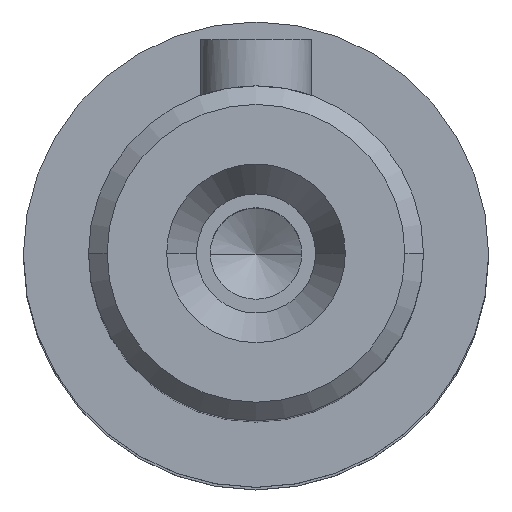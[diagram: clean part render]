
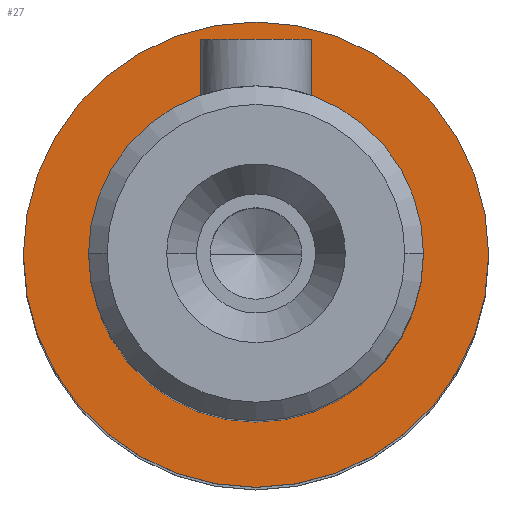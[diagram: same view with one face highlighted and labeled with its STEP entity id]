
A CAD part, top view. The second image highlights one B-rep face of the part: STEP entity #27.
In plain terms, the highlighted planar face has unit normal (0, 0, 1) as drawn and (1, 0, 0) by its records, which use the part's own axes.
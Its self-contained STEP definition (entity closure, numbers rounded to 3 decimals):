
#27=ADVANCED_FACE('',(#66,#54),#469,.T.);
#54=FACE_BOUND('',#103,.T.);
#66=FACE_OUTER_BOUND('',#102,.T.);
#102=EDGE_LOOP('',(#166,#167));
#103=EDGE_LOOP('',(#168,#169));
#166=ORIENTED_EDGE('',*,*,#308,.F.);
#167=ORIENTED_EDGE('',*,*,#269,.F.);
#168=ORIENTED_EDGE('',*,*,#297,.F.);
#169=ORIENTED_EDGE('',*,*,#258,.F.);
#258=EDGE_CURVE('',#423,#445,#320,.T.);
#269=EDGE_CURVE('',#431,#453,#327,.T.);
#297=EDGE_CURVE('',#445,#423,#340,.T.);
#308=EDGE_CURVE('',#453,#431,#347,.T.);
#320=TRIMMED_CURVE($,#354,(#966),(#967),.T.,.CARTESIAN.);
#327=TRIMMED_CURVE($,#361,(#995),(#996),.T.,.CARTESIAN.);
#340=TRIMMED_CURVE($,#374,(#1074),(#1075),.T.,.CARTESIAN.);
#347=TRIMMED_CURVE($,#381,(#1103),(#1104),.T.,.CARTESIAN.);
#354=CIRCLE('',#694,9.);
#361=CIRCLE('',#701,12.5);
#374=CIRCLE('',#714,9.);
#381=CIRCLE('',#721,12.5);
#423=VERTEX_POINT('',#925);
#431=VERTEX_POINT('',#933);
#445=VERTEX_POINT('',#947);
#453=VERTEX_POINT('',#955);
#469=PLANE('',#677);
#677=AXIS2_PLACEMENT_3D('',#843,#743,$);
#694=AXIS2_PLACEMENT_3D($,#965,#760,#761);
#701=AXIS2_PLACEMENT_3D($,#994,#774,#775);
#714=AXIS2_PLACEMENT_3D($,#1073,#800,#801);
#721=AXIS2_PLACEMENT_3D($,#1102,#814,#815);
#743=DIRECTION('',(1.,0.,0.));
#760=DIRECTION('',(1.,0.,0.));
#761=DIRECTION('',(0.,0.,-1.));
#774=DIRECTION('',(-1.,0.,0.));
#775=DIRECTION('',(0.,0.,-1.));
#800=DIRECTION('',(1.,0.,0.));
#801=DIRECTION('',(0.,0.,1.));
#814=DIRECTION('',(-1.,0.,0.));
#815=DIRECTION('',(0.,0.,1.));
#843=CARTESIAN_POINT('',(42.,-15.06,-15.06));
#925=CARTESIAN_POINT('',(42.,0.,-9.));
#933=CARTESIAN_POINT('',(42.,0.,-12.5));
#947=CARTESIAN_POINT('',(42.,0.,9.));
#955=CARTESIAN_POINT('',(42.,0.,12.5));
#965=CARTESIAN_POINT('',(42.,0.,0.));
#966=CARTESIAN_POINT('',(42.,0.,-9.));
#967=CARTESIAN_POINT('',(42.,0.,9.));
#994=CARTESIAN_POINT('',(42.,0.,0.));
#995=CARTESIAN_POINT('',(42.,0.,-12.5));
#996=CARTESIAN_POINT('',(42.,0.,12.5));
#1073=CARTESIAN_POINT('',(42.,0.,0.));
#1074=CARTESIAN_POINT('',(42.,0.,9.));
#1075=CARTESIAN_POINT('',(42.,0.,-9.));
#1102=CARTESIAN_POINT('',(42.,0.,0.));
#1103=CARTESIAN_POINT('',(42.,0.,12.5));
#1104=CARTESIAN_POINT('',(42.,0.,-12.5));
